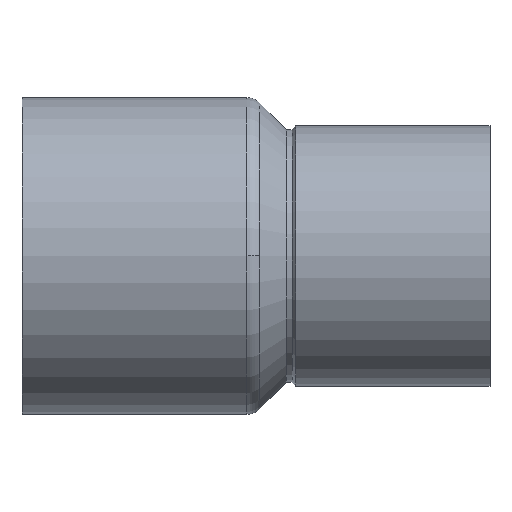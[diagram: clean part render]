
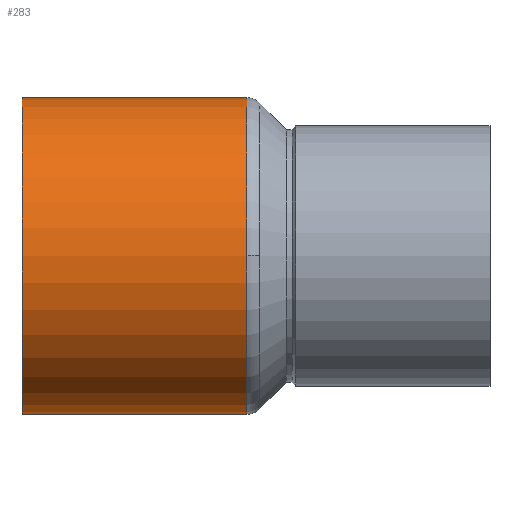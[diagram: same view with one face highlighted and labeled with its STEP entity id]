
A CAD part, top view. The second image highlights one B-rep face of the part: STEP entity #283.
In plain terms, the highlighted cylindrical face has radius 8.455 mm (diameter 16.91 mm), a partial arc.
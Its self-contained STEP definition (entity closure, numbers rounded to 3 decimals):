
#207=CARTESIAN_POINT('',(12.,8.455,0.0));
#208=VERTEX_POINT('',#207);
#216=CARTESIAN_POINT('',(12.,0.,8.455));
#217=VERTEX_POINT('',#216);
#218=CARTESIAN_POINT('',(12.,0.0,0.0));
#219=DIRECTION('',(1.0,0.0,0.0));
#220=DIRECTION('',(0.0,1.0,0.0));
#221=AXIS2_PLACEMENT_3D('',#218,#219,#220);
#222=CIRCLE('',#221,8.455);
#223=EDGE_CURVE('',#208,#217,#222,.T.);
#243=CARTESIAN_POINT('',(6.,0.0,0.0));
#244=DIRECTION('',(1.0,0.0,0.0));
#245=DIRECTION('',(0.0,1.0,0.0));
#246=AXIS2_PLACEMENT_3D('',#243,#244,#245);
#247=CYLINDRICAL_SURFACE('',#246,8.455);
#248=CARTESIAN_POINT('',(0.0,8.455,0.0));
#249=VERTEX_POINT('',#248);
#250=CARTESIAN_POINT('',(0.0,8.455,0.0));
#251=DIRECTION('',(1.0,0.0,0.0));
#252=VECTOR('',#251,12.);
#253=LINE('',#250,#252);
#254=EDGE_CURVE('',#249,#208,#253,.T.);
#255=ORIENTED_EDGE('',*,*,#254,.F.);
#256=CARTESIAN_POINT('',(0.0,-8.455,0.));
#257=VERTEX_POINT('',#256);
#258=CARTESIAN_POINT('',(0.0,0.0,0.0));
#259=DIRECTION('',(1.0,0.0,0.0));
#260=DIRECTION('',(0.0,1.0,0.0));
#261=AXIS2_PLACEMENT_3D('',#258,#259,#260);
#262=CIRCLE('',#261,8.455);
#263=EDGE_CURVE('',#249,#257,#262,.T.);
#264=ORIENTED_EDGE('',*,*,#263,.T.);
#265=CARTESIAN_POINT('',(12.,-8.455,0.));
#266=VERTEX_POINT('',#265);
#267=CARTESIAN_POINT('',(12.,-8.455,0.));
#268=DIRECTION('',(-1.0,0.0,0.0));
#269=VECTOR('',#268,12.);
#270=LINE('',#267,#269);
#271=EDGE_CURVE('',#266,#257,#270,.T.);
#272=ORIENTED_EDGE('',*,*,#271,.F.);
#273=CARTESIAN_POINT('',(12.,0.0,0.0));
#274=DIRECTION('',(1.0,0.0,0.0));
#275=DIRECTION('',(0.0,1.0,0.0));
#276=AXIS2_PLACEMENT_3D('',#273,#274,#275);
#277=CIRCLE('',#276,8.455);
#278=EDGE_CURVE('',#217,#266,#277,.T.);
#279=ORIENTED_EDGE('',*,*,#278,.F.);
#280=ORIENTED_EDGE('',*,*,#223,.F.);
#281=EDGE_LOOP('',(#255,#264,#272,#279,#280));
#282=FACE_OUTER_BOUND('',#281,.T.);
#283=ADVANCED_FACE('',(#282),#247,.T.);
